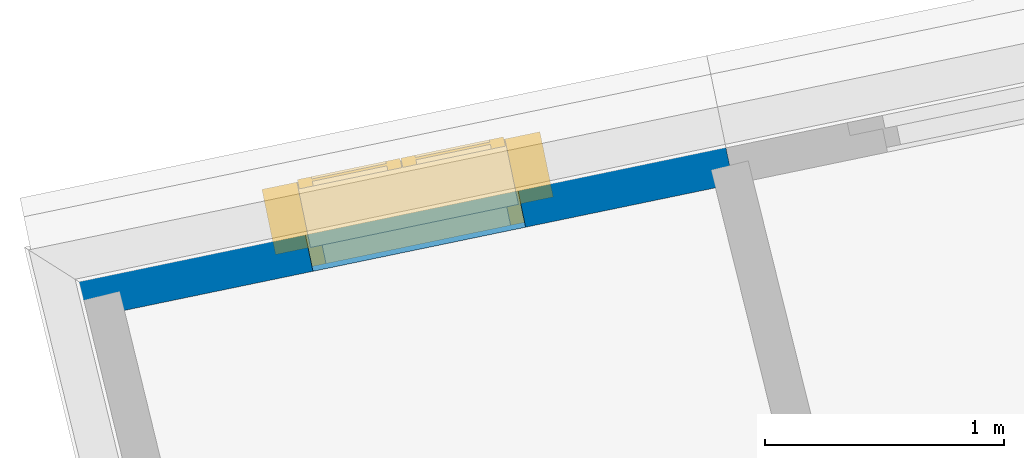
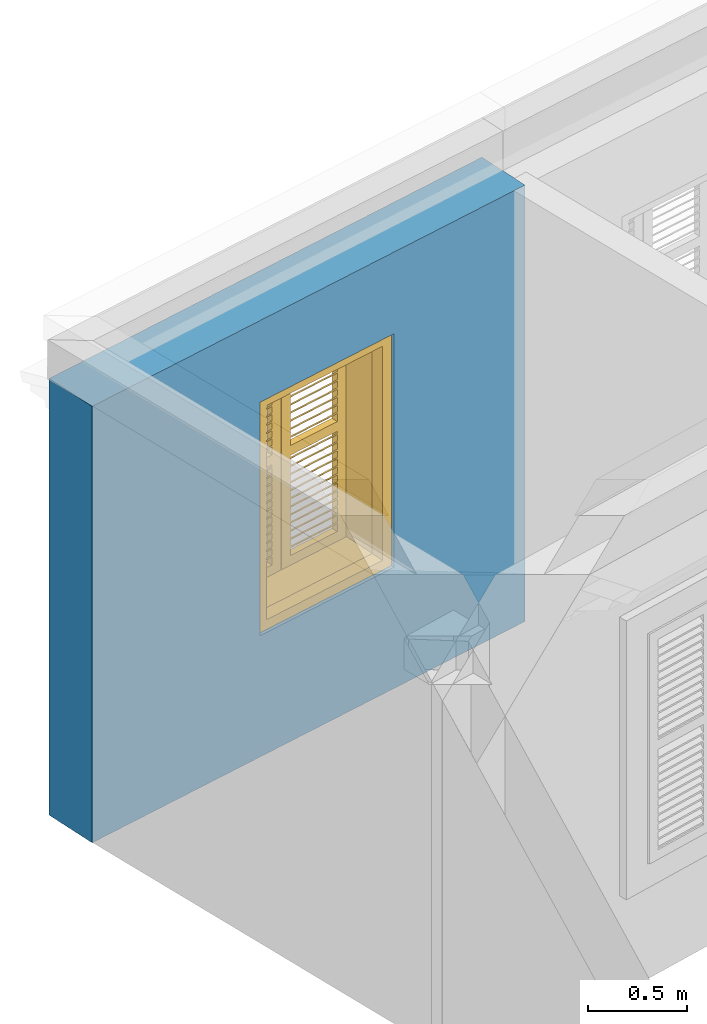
# One storey, part 9 of 15: 1 wall, 1 window, 1 opening.
"""IFC4 building model written with IfcOpenShell, lengths in metres."""

from ifc_helpers import new_model, si_unit, frame, origin, origin_with_axes, place, context, subcontext, project, spatial, polyline, outline, extrude, faceted_brep, source, transform, mapped, material, layer, layer_set, layer_usage, type_object, type_shapes, element, fill, save


model = new_model("IFC4")

# Units and contexts
model_context = context("Model", 3, world=origin_with_axes())
body_context = subcontext(model_context, "Body", "Model", "MODEL_VIEW")
ifc_project = project(units=[si_unit("PLANEANGLEUNIT", "RADIAN"), si_unit("MASSUNIT", "GRAM", prefix="KILO"), si_unit("FORCEUNIT", "NEWTON", prefix="KILO"), si_unit("LENGTHUNIT", "METRE"), si_unit("AREAUNIT", "SQUARE_METRE"), si_unit("VOLUMEUNIT", "CUBIC_METRE")], contexts=[model_context, model_context])

# Site, building, storey
site_placement = place(None, origin_with_axes())
site = spatial("IfcSite", under=ifc_project, at=site_placement, Name="Site plot-5", CompositionType="ELEMENT")
building_placement = place(None, origin_with_axes())
building = spatial("IfcBuilding", under=site, at=building_placement, Name="Building plot-5", CompositionType="ELEMENT")
storey_placement = place(None, frame((0.0, 0.0, 3.45), z_axis=(0.0, 0.0, 1.0), x_axis=(1.0, 0.0, 0.0)))
storey = spatial("IfcBuildingStorey", under=building, at=storey_placement, Name="plot-5 1", CompositionType="ELEMENT", Elevation=3.45)

# Wall, opening, window
ifc_material = material(Name="Masonry")
ifc_layer = layer(ifc_material, 0.33, ventilated=False)
ifc_layer_set = layer_set([ifc_layer], Name="exterior_0.08_0.25")
ifc_layer_usage = layer_usage(ifc_layer_set, "AXIS2", "POSITIVE", -0.25)
wall_type = type_object("IfcWallType", Name="exterior_0.08_0.25", PredefinedType="SOLIDWALL", material=ifc_layer_set)
wall_placement = place(storey_placement, frame((17.2174370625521, 31.1632786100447, 0.0), z_axis=(0.0, 0.0, 1.0), x_axis=(-0.979153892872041, -0.203119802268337, 0.0)))
wall = element("IfcWall", 1, at=wall_placement, inside=storey, type_object=wall_type, material=ifc_layer_usage, Name="exterior", context=body_context, shape_type="SweptSolid", body=[
    extrude(outline(polyline([(-2.92792097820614e-15, 0.0799999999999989), (6.17704587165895e-15, -0.25), (2.93941031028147, -0.25), (2.93941031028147, 0.079999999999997), (-2.92792097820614e-15, 0.0799999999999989)])), origin_with_axes(), (0.0, 0.0, 1.0), 2.7),
])
opening_placement = place(wall_placement, frame((0.889705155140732, 0.0, 0.75)))
opening = element("IfcOpeningElement", 2, at=opening_placement, cuts=wall, Name="My Opening", ObjectType="Opening", context=body_context, shape_type="SweptSolid", body=[
    extrude(outline(polyline([(0.0, -0.27), (0.910000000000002, -0.270000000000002), (0.910000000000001, 1.1), (4.55191440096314e-15, 1.1), (0.0, -0.27)])), origin_with_axes(), (0.0, 0.0, 1.0), 1.445),
])
window_type = type_object("IfcWindowType", Name="shuttered_shorter", PartitioningType="DOUBLE_PANEL_HORIZONTAL", PredefinedType="NOTDEFINED")
shared_shape = source(origin(), body_context, "Body", "Brep", [
    faceted_brep([(0.393, 0.0, 0.622), (0.074, 0.0, 0.622), (0.074, 0.0, 0.632), (0.393, 0.0, 0.632), (0.074, -0.04, 0.592), (0.393, -0.04, 0.592), (0.393, -0.04, 0.582), (0.074, -0.04, 0.582), (0.517, 0.0, 0.682), (0.836, 0.0, 0.682), (0.836, 0.0, 0.672), (0.517, 0.0, 0.672), (0.517, -0.04, 0.642), (0.836, -0.04, 0.642), (0.836, -0.04, 0.632), (0.517, -0.04, 0.632), (0.517, 0.0, 0.632), (0.836, 0.0, 0.632), (0.836, 0.0, 0.622), (0.517, 0.0, 0.622), (0.517, -0.04, 0.592), (0.836, -0.04, 0.592), (0.836, -0.04, 0.582), (0.517, -0.04, 0.582), (0.517, 0.0, 0.232), (0.836, 0.0, 0.232), (0.836, 0.0, 0.222), (0.517, 0.0, 0.222), (0.517, -0.04, 0.192), (0.836, -0.04, 0.192), (0.836, -0.04, 0.182), (0.517, -0.04, 0.182), (0.517, 0.0, 0.532), (0.836, 0.0, 0.532), (0.836, 0.0, 0.522), (0.517, 0.0, 0.522), (0.517, -0.04, 0.492), (0.836, -0.04, 0.492), (0.836, -0.04, 0.482), (0.517, -0.04, 0.482), (0.517, 0.0, 0.482), (0.836, 0.0, 0.482), (0.836, 0.0, 0.472), (0.517, 0.0, 0.472), (0.517, -0.04, 0.442), (0.836, -0.04, 0.442), (0.836, -0.04, 0.432), (0.517, -0.04, 0.432), (0.517, 0.0, 0.582), (0.836, 0.0, 0.582), (0.836, 0.0, 0.572), (0.517, 0.0, 0.572), (0.517, -0.04, 0.542), (0.836, -0.04, 0.542), (0.836, -0.04, 0.532), (0.517, -0.04, 0.532), (0.517, 0.0, 0.182), (0.836, 0.0, 0.182), (0.836, 0.0, 0.172), (0.517, 0.0, 0.172), (0.517, -0.04, 0.142), (0.836, -0.04, 0.142), (0.836, -0.04, 0.132), (0.517, -0.04, 0.132), (0.517, 0.0, 0.382), (0.836, 0.0, 0.382), (0.836, 0.0, 0.372), (0.517, 0.0, 0.372), (0.517, -0.04, 0.342), (0.836, -0.04, 0.342), (0.836, -0.04, 0.332), (0.517, -0.04, 0.332), (0.517, 0.0, 0.432), (0.836, 0.0, 0.432), (0.836, 0.0, 0.422), (0.517, 0.0, 0.422), (0.517, -0.04, 0.392), (0.836, -0.04, 0.392), (0.836, -0.04, 0.382), (0.517, -0.04, 0.382), (0.517, 0.0, 0.132), (0.836, 0.0, 0.132), (0.836, 0.0, 0.122), (0.517, 0.0, 0.122), (0.517, -0.04, 0.092), (0.836, -0.04, 0.092), (0.836, -0.04, 0.082), (0.517, -0.04, 0.082), (0.517, 0.0, 0.282), (0.836, 0.0, 0.282), (0.836, 0.0, 0.272), (0.517, 0.0, 0.272), (0.517, -0.04, 0.242), (0.836, -0.04, 0.242), (0.836, -0.04, 0.232), (0.517, -0.04, 0.232), (0.517, 0.0, 0.332), (0.836, 0.0, 0.332), (0.836, 0.0, 0.322), (0.517, 0.0, 0.322), (0.517, -0.04, 0.292), (0.836, -0.04, 0.292), (0.836, -0.04, 0.282), (0.517, -0.04, 0.282), (0.517, 0.0, 1.362667), (0.836, 0.0, 1.362667), (0.836, 0.0, 1.352667), (0.517, 0.0, 1.352667), (0.517, -0.04, 1.322667), (0.836, -0.04, 1.322667), (0.836, -0.04, 1.312667), (0.517, -0.04, 1.312667), (0.517, 0.0, 1.312667), (0.836, 0.0, 1.312667), (0.836, 0.0, 1.302667), (0.517, 0.0, 1.302667), (0.517, -0.04, 1.272667), (0.836, -0.04, 1.272667), (0.836, -0.04, 1.262667), (0.517, -0.04, 1.262667), (0.517, 0.0, 0.912667), (0.836, 0.0, 0.912667), (0.836, 0.0, 0.902667), (0.517, 0.0, 0.902667), (0.517, -0.04, 0.872667), (0.836, -0.04, 0.872667), (0.836, -0.04, 0.862667), (0.517, -0.04, 0.862667), (0.517, 0.0, 1.212667), (0.836, 0.0, 1.212667), (0.836, 0.0, 1.202667), (0.517, 0.0, 1.202667), (0.517, -0.04, 1.172667), (0.836, -0.04, 1.172667), (0.836, -0.04, 1.162667), (0.517, -0.04, 1.162667), (0.517, 0.0, 1.162667), (0.836, 0.0, 1.162667), (0.836, 0.0, 1.152667), (0.517, 0.0, 1.152667), (0.517, -0.04, 1.122667), (0.836, -0.04, 1.122667), (0.836, -0.04, 1.112667), (0.517, -0.04, 1.112667), (0.517, 0.0, 1.262667), (0.836, 0.0, 1.262667), (0.836, 0.0, 1.252667), (0.517, 0.0, 1.252667), (0.517, -0.04, 1.222667), (0.836, -0.04, 1.222667), (0.836, -0.04, 1.212667), (0.517, -0.04, 1.212667), (0.517, 0.0, 0.862667), (0.836, 0.0, 0.862667), (0.836, 0.0, 0.852667), (0.517, 0.0, 0.852667), (0.517, -0.04, 0.822667), (0.836, -0.04, 0.822667), (0.836, -0.04, 0.812667), (0.517, -0.04, 0.812667), (0.517, 0.0, 1.062667), (0.836, 0.0, 1.062667), (0.836, 0.0, 1.052667), (0.517, 0.0, 1.052667), (0.517, -0.04, 1.022667), (0.836, -0.04, 1.022667), (0.836, -0.04, 1.012667), (0.517, -0.04, 1.012667), (0.517, 0.0, 1.112667), (0.836, 0.0, 1.112667), (0.836, 0.0, 1.102667), (0.517, 0.0, 1.102667), (0.517, -0.04, 1.072667), (0.836, -0.04, 1.072667), (0.836, -0.04, 1.062667), (0.517, -0.04, 1.062667), (0.517, 0.0, 0.812667), (0.836, 0.0, 0.812667), (0.836, 0.0, 0.802667), (0.517, 0.0, 0.802667), (0.517, -0.04, 0.772667), (0.836, -0.04, 0.772667), (0.836, -0.04, 0.762667), (0.517, -0.04, 0.762667), (0.517, 0.0, 0.962667), (0.836, 0.0, 0.962667), (0.836, 0.0, 0.952667), (0.517, 0.0, 0.952667), (0.517, -0.04, 0.922667), (0.836, -0.04, 0.922667), (0.836, -0.04, 0.912667), (0.517, -0.04, 0.912667), (0.517, 0.0, 1.012667), (0.836, 0.0, 1.012667), (0.836, 0.0, 1.002667), (0.517, 0.0, 1.002667), (0.517, -0.04, 0.972667), (0.836, -0.04, 0.972667), (0.836, -0.04, 0.962667), (0.517, -0.04, 0.962667), (0.074, 0.0, 0.682), (0.393, 0.0, 0.682), (0.393, 0.0, 0.672), (0.074, 0.0, 0.672), (0.074, -0.04, 0.642), (0.393, -0.04, 0.642), (0.393, -0.04, 0.632), (0.074, -0.04, 0.632), (0.074, 0.0, 0.232), (0.393, 0.0, 0.232), (0.393, 0.0, 0.222), (0.074, 0.0, 0.222), (0.074, -0.04, 0.192), (0.393, -0.04, 0.192), (0.393, -0.04, 0.182), (0.074, -0.04, 0.182), (0.074, 0.0, 0.532), (0.393, 0.0, 0.532), (0.393, 0.0, 0.522), (0.074, 0.0, 0.522), (0.074, -0.04, 0.492), (0.393, -0.04, 0.492), (0.393, -0.04, 0.482), (0.074, -0.04, 0.482), (0.074, 0.0, 0.482), (0.393, 0.0, 0.482), (0.393, 0.0, 0.472), (0.074, 0.0, 0.472), (0.074, -0.04, 0.442), (0.393, -0.04, 0.442), (0.393, -0.04, 0.432), (0.074, -0.04, 0.432), (0.074, 0.0, 0.582), (0.393, 0.0, 0.582), (0.393, 0.0, 0.572), (0.074, 0.0, 0.572), (0.074, -0.04, 0.542), (0.393, -0.04, 0.542), (0.393, -0.04, 0.532), (0.074, -0.04, 0.532), (0.074, 0.0, 0.182), (0.393, 0.0, 0.182), (0.393, 0.0, 0.172), (0.074, 0.0, 0.172), (0.074, -0.04, 0.142), (0.393, -0.04, 0.142), (0.393, -0.04, 0.132), (0.074, -0.04, 0.132), (0.074, 0.0, 0.382), (0.393, 0.0, 0.382), (0.393, 0.0, 0.372), (0.074, 0.0, 0.372), (0.074, -0.04, 0.342), (0.393, -0.04, 0.342), (0.393, -0.04, 0.332), (0.074, -0.04, 0.332), (0.074, 0.0, 0.432), (0.393, 0.0, 0.432), (0.393, 0.0, 0.422), (0.074, 0.0, 0.422), (0.074, -0.04, 0.392), (0.393, -0.04, 0.392), (0.393, -0.04, 0.382), (0.074, -0.04, 0.382), (0.074, 0.0, 0.132), (0.393, 0.0, 0.132), (0.393, 0.0, 0.122), (0.074, 0.0, 0.122), (0.074, -0.04, 0.092), (0.393, -0.04, 0.092), (0.393, -0.04, 0.082), (0.074, -0.04, 0.082), (0.074, 0.0, 0.282), (0.393, 0.0, 0.282), (0.393, 0.0, 0.272), (0.074, 0.0, 0.272), (0.074, -0.04, 0.242), (0.393, -0.04, 0.242), (0.393, -0.04, 0.232), (0.074, -0.04, 0.232), (0.074, 0.0, 0.332), (0.393, 0.0, 0.332), (0.393, 0.0, 0.322), (0.074, 0.0, 0.322), (0.074, -0.04, 0.292), (0.393, -0.04, 0.292), (0.393, -0.04, 0.282), (0.074, -0.04, 0.282), (0.074, 0.0, 1.362667), (0.393, 0.0, 1.362667), (0.393, 0.0, 1.352667), (0.074, 0.0, 1.352667), (0.074, -0.04, 1.322667), (0.393, -0.04, 1.322667), (0.393, -0.04, 1.312667), (0.074, -0.04, 1.312667), (0.074, 0.0, 1.312667), (0.393, 0.0, 1.312667), (0.393, 0.0, 1.302667), (0.074, 0.0, 1.302667), (0.074, -0.04, 1.272667), (0.393, -0.04, 1.272667), (0.393, -0.04, 1.262667), (0.074, -0.04, 1.262667), (0.074, 0.0, 0.912667), (0.393, 0.0, 0.912667), (0.393, 0.0, 0.902667), (0.074, 0.0, 0.902667), (0.074, -0.04, 0.872667), (0.393, -0.04, 0.872667), (0.393, -0.04, 0.862667), (0.074, -0.04, 0.862667), (0.074, 0.0, 1.212667), (0.393, 0.0, 1.212667), (0.393, 0.0, 1.202667), (0.074, 0.0, 1.202667), (0.074, -0.04, 1.172667), (0.393, -0.04, 1.172667), (0.393, -0.04, 1.162667), (0.074, -0.04, 1.162667), (0.074, 0.0, 1.162667), (0.393, 0.0, 1.162667), (0.393, 0.0, 1.152667), (0.074, 0.0, 1.152667), (0.074, -0.04, 1.122667), (0.393, -0.04, 1.122667), (0.393, -0.04, 1.112667), (0.074, -0.04, 1.112667), (0.074, 0.0, 1.262667), (0.393, 0.0, 1.262667), (0.393, 0.0, 1.252667), (0.074, 0.0, 1.252667), (0.074, -0.04, 1.222667), (0.393, -0.04, 1.222667), (0.393, -0.04, 1.212667), (0.074, -0.04, 1.212667), (0.074, 0.0, 0.862667), (0.393, 0.0, 0.862667), (0.393, 0.0, 0.852667), (0.074, 0.0, 0.852667), (0.074, -0.04, 0.822667), (0.393, -0.04, 0.822667), (0.393, -0.04, 0.812667), (0.074, -0.04, 0.812667), (0.074, 0.0, 1.062667), (0.393, 0.0, 1.062667), (0.393, 0.0, 1.052667), (0.074, 0.0, 1.052667), (0.074, -0.04, 1.022667), (0.393, -0.04, 1.022667), (0.393, -0.04, 1.012667), (0.074, -0.04, 1.012667), (0.074, 0.0, 1.112667), (0.393, 0.0, 1.112667), (0.393, 0.0, 1.102667), (0.074, 0.0, 1.102667), (0.074, -0.04, 1.072667), (0.393, -0.04, 1.072667), (0.393, -0.04, 1.062667), (0.074, -0.04, 1.062667), (0.074, 0.0, 0.812667), (0.393, 0.0, 0.812667), (0.393, 0.0, 0.802667), (0.074, 0.0, 0.802667), (0.074, -0.04, 0.772667), (0.393, -0.04, 0.772667), (0.393, -0.04, 0.762667), (0.074, -0.04, 0.762667), (0.074, 0.0, 0.962667), (0.393, 0.0, 0.962667), (0.393, 0.0, 0.952667), (0.074, 0.0, 0.952667), (0.074, -0.04, 0.922667), (0.393, -0.04, 0.922667), (0.393, -0.04, 0.912667), (0.074, -0.04, 0.912667), (0.074, 0.0, 1.012667), (0.393, 0.0, 1.012667), (0.393, 0.0, 1.002667), (0.074, 0.0, 1.002667), (0.074, -0.04, 0.972667), (0.393, -0.04, 0.972667), (0.393, -0.04, 0.962667), (0.074, -0.04, 0.962667), (0.517, -0.04, 0.072), (0.457, -0.04, 0.012), (0.896, -0.04, 0.012), (0.836, -0.04, 0.072), (0.457, -0.04, 0.692667), (0.517, -0.04, 0.692667), (0.457, 0.0, 0.012), (0.896, 0.0, 0.012), (0.836, -0.04, 0.692667), (0.896, -0.04, 0.692667), (0.836, 0.0, 0.072), (0.517, 0.0, 0.072), (0.457, 0.0, 0.692667), (0.517, 0.0, 0.692667), (0.517, -0.04, 0.752666), (0.457, -0.04, 0.752666), (0.896, 0.0, 0.692667), (0.836, 0.0, 0.692667), (0.836, -0.04, 0.752666), (0.896, -0.04, 0.752666), (0.457, 0.0, 0.752666), (0.457, -0.04, 1.433333), (0.517, -0.04, 1.373333), (0.896, 0.0, 0.752666), (0.836, -0.04, 1.373333), (0.896, -0.04, 1.433333), (0.457, 0.0, 1.433333), (0.517, 0.0, 0.752666), (0.836, 0.0, 0.752666), (0.517, 0.0, 1.373333), (0.896, 0.0, 1.433333), (0.836, 0.0, 1.373333), (0.074, -0.04, 0.072), (0.014, -0.04, 0.012), (0.453, -0.04, 0.012), (0.393, -0.04, 0.072), (0.014, -0.04, 0.692667), (0.074, -0.04, 0.692667), (0.014, 0.0, 0.012), (0.453, 0.0, 0.012), (0.393, -0.04, 0.692667), (0.453, -0.04, 0.692667), (0.393, 0.0, 0.072), (0.074, 0.0, 0.072), (0.014, 0.0, 0.692667), (0.074, 0.0, 0.692667), (0.074, -0.04, 0.752666), (0.014, -0.04, 0.752666), (0.453, 0.0, 0.692667), (0.393, 0.0, 0.692667), (0.393, -0.04, 0.752666), (0.453, -0.04, 0.752666), (0.014, 0.0, 0.752666), (0.014, -0.04, 1.433333), (0.074, -0.04, 1.373333), (0.453, 0.0, 0.752666), (0.393, -0.04, 1.373333), (0.453, -0.04, 1.433333), (0.014, 0.0, 1.433333), (0.074, 0.0, 0.752666), (0.393, 0.0, 0.752666), (0.074, 0.0, 1.373333), (0.453, 0.0, 1.433333), (0.393, 0.0, 1.373333), (0.0, 0.33, 1.445), (0.91, 0.33, 1.445), (0.85, 0.33, 1.385), (0.06, 0.33, 1.385), (0.91, 0.25, 1.445), (0.0, 0.25, 1.445), (0.91, 0.25, 1.445), (0.85, 0.33, 0.06), (0.91, 0.33, 0.0), (0.85, 0.25, 1.385), (0.06, 0.25, 1.385), (0.0, 0.33, 0.0), (0.06, 0.33, 0.06), (0.0, 0.25, 0.0), (0.91, 0.25, 0.0), (0.85, 0.25, 0.06), (0.06, 0.25, 0.06), (1.05, 0.25, 1.585), (-0.14, 0.25, 1.585), (-0.14, -0.03, 1.585), (1.05, -0.03, 1.585), (0.9, -0.03, 1.435), (0.01, -0.03, 1.435), (0.01, 0.25, 1.435), (0.9, 0.25, 1.435), (0.9, 0.25, 0.01), (0.9, -0.03, 0.01), (1.05, -0.03, -0.14), (1.05, 0.25, -0.14), (0.01, -0.03, 0.01), (0.01, 0.25, 0.01), (-0.14, -0.03, -0.14), (-0.14, 0.25, -0.14)], [[[0, 1, 2, 3]], [[4, 5, 3, 2]], [[5, 6, 0, 3]], [[1, 0, 6, 7]], [[2, 1, 7, 4]], [[5, 4, 7, 6]], [[8, 9, 10, 11]], [[12, 13, 9, 8]], [[13, 14, 10, 9]], [[14, 15, 11, 10]], [[15, 12, 8, 11]], [[13, 12, 15, 14]], [[16, 17, 18, 19]], [[20, 21, 17, 16]], [[21, 22, 18, 17]], [[22, 23, 19, 18]], [[23, 20, 16, 19]], [[21, 20, 23, 22]], [[24, 25, 26, 27]], [[28, 29, 25, 24]], [[29, 30, 26, 25]], [[30, 31, 27, 26]], [[31, 28, 24, 27]], [[29, 28, 31, 30]], [[32, 33, 34, 35]], [[36, 37, 33, 32]], [[37, 38, 34, 33]], [[38, 39, 35, 34]], [[39, 36, 32, 35]], [[37, 36, 39, 38]], [[40, 41, 42, 43]], [[44, 45, 41, 40]], [[45, 46, 42, 41]], [[46, 47, 43, 42]], [[47, 44, 40, 43]], [[45, 44, 47, 46]], [[48, 49, 50, 51]], [[52, 53, 49, 48]], [[53, 54, 50, 49]], [[54, 55, 51, 50]], [[55, 52, 48, 51]], [[53, 52, 55, 54]], [[56, 57, 58, 59]], [[60, 61, 57, 56]], [[61, 62, 58, 57]], [[62, 63, 59, 58]], [[63, 60, 56, 59]], [[61, 60, 63, 62]], [[64, 65, 66, 67]], [[68, 69, 65, 64]], [[69, 70, 66, 65]], [[70, 71, 67, 66]], [[71, 68, 64, 67]], [[69, 68, 71, 70]], [[72, 73, 74, 75]], [[76, 77, 73, 72]], [[77, 78, 74, 73]], [[78, 79, 75, 74]], [[79, 76, 72, 75]], [[77, 76, 79, 78]], [[80, 81, 82, 83]], [[84, 85, 81, 80]], [[85, 86, 82, 81]], [[86, 87, 83, 82]], [[87, 84, 80, 83]], [[85, 84, 87, 86]], [[88, 89, 90, 91]], [[92, 93, 89, 88]], [[93, 94, 90, 89]], [[94, 95, 91, 90]], [[95, 92, 88, 91]], [[93, 92, 95, 94]], [[96, 97, 98, 99]], [[100, 101, 97, 96]], [[101, 102, 98, 97]], [[102, 103, 99, 98]], [[103, 100, 96, 99]], [[101, 100, 103, 102]], [[104, 105, 106, 107]], [[108, 109, 105, 104]], [[109, 110, 106, 105]], [[110, 111, 107, 106]], [[111, 108, 104, 107]], [[109, 108, 111, 110]], [[112, 113, 114, 115]], [[116, 117, 113, 112]], [[117, 118, 114, 113]], [[118, 119, 115, 114]], [[119, 116, 112, 115]], [[117, 116, 119, 118]], [[120, 121, 122, 123]], [[124, 125, 121, 120]], [[125, 126, 122, 121]], [[126, 127, 123, 122]], [[127, 124, 120, 123]], [[125, 124, 127, 126]], [[128, 129, 130, 131]], [[132, 133, 129, 128]], [[133, 134, 130, 129]], [[134, 135, 131, 130]], [[135, 132, 128, 131]], [[133, 132, 135, 134]], [[136, 137, 138, 139]], [[140, 141, 137, 136]], [[141, 142, 138, 137]], [[142, 143, 139, 138]], [[139, 143, 140, 136]], [[141, 140, 143, 142]], [[144, 145, 146, 147]], [[148, 149, 145, 144]], [[149, 150, 146, 145]], [[150, 151, 147, 146]], [[151, 148, 144, 147]], [[149, 148, 151, 150]], [[152, 153, 154, 155]], [[156, 157, 153, 152]], [[157, 158, 154, 153]], [[158, 159, 155, 154]], [[159, 156, 152, 155]], [[157, 156, 159, 158]], [[160, 161, 162, 163]], [[164, 165, 161, 160]], [[165, 166, 162, 161]], [[166, 167, 163, 162]], [[167, 164, 160, 163]], [[165, 164, 167, 166]], [[168, 169, 170, 171]], [[172, 173, 169, 168]], [[173, 174, 170, 169]], [[174, 175, 171, 170]], [[175, 172, 168, 171]], [[173, 172, 175, 174]], [[176, 177, 178, 179]], [[180, 181, 177, 176]], [[181, 182, 178, 177]], [[182, 183, 179, 178]], [[183, 180, 176, 179]], [[181, 180, 183, 182]], [[184, 185, 186, 187]], [[188, 189, 185, 184]], [[189, 190, 186, 185]], [[190, 191, 187, 186]], [[191, 188, 184, 187]], [[189, 188, 191, 190]], [[192, 193, 194, 195]], [[196, 197, 193, 192]], [[197, 198, 194, 193]], [[198, 199, 195, 194]], [[199, 196, 192, 195]], [[197, 196, 199, 198]], [[200, 201, 202, 203]], [[204, 205, 201, 200]], [[205, 206, 202, 201]], [[206, 207, 203, 202]], [[207, 204, 200, 203]], [[205, 204, 207, 206]], [[208, 209, 210, 211]], [[212, 213, 209, 208]], [[213, 214, 210, 209]], [[214, 215, 211, 210]], [[215, 212, 208, 211]], [[213, 212, 215, 214]], [[216, 217, 218, 219]], [[220, 221, 217, 216]], [[221, 222, 218, 217]], [[222, 223, 219, 218]], [[223, 220, 216, 219]], [[221, 220, 223, 222]], [[224, 225, 226, 227]], [[228, 229, 225, 224]], [[229, 230, 226, 225]], [[230, 231, 227, 226]], [[231, 228, 224, 227]], [[229, 228, 231, 230]], [[232, 233, 234, 235]], [[236, 237, 233, 232]], [[237, 238, 234, 233]], [[238, 239, 235, 234]], [[239, 236, 232, 235]], [[237, 236, 239, 238]], [[240, 241, 242, 243]], [[244, 245, 241, 240]], [[245, 246, 242, 241]], [[246, 247, 243, 242]], [[247, 244, 240, 243]], [[245, 244, 247, 246]], [[248, 249, 250, 251]], [[252, 253, 249, 248]], [[253, 254, 250, 249]], [[254, 255, 251, 250]], [[255, 252, 248, 251]], [[253, 252, 255, 254]], [[256, 257, 258, 259]], [[260, 261, 257, 256]], [[261, 262, 258, 257]], [[262, 263, 259, 258]], [[263, 260, 256, 259]], [[261, 260, 263, 262]], [[264, 265, 266, 267]], [[268, 269, 265, 264]], [[269, 270, 266, 265]], [[270, 271, 267, 266]], [[271, 268, 264, 267]], [[269, 268, 271, 270]], [[272, 273, 274, 275]], [[276, 277, 273, 272]], [[277, 278, 274, 273]], [[278, 279, 275, 274]], [[279, 276, 272, 275]], [[277, 276, 279, 278]], [[280, 281, 282, 283]], [[284, 285, 281, 280]], [[285, 286, 282, 281]], [[286, 287, 283, 282]], [[287, 284, 280, 283]], [[285, 284, 287, 286]], [[288, 289, 290, 291]], [[292, 293, 289, 288]], [[293, 294, 290, 289]], [[294, 295, 291, 290]], [[295, 292, 288, 291]], [[293, 292, 295, 294]], [[296, 297, 298, 299]], [[300, 301, 297, 296]], [[301, 302, 298, 297]], [[302, 303, 299, 298]], [[303, 300, 296, 299]], [[301, 300, 303, 302]], [[304, 305, 306, 307]], [[308, 309, 305, 304]], [[309, 310, 306, 305]], [[310, 311, 307, 306]], [[311, 308, 304, 307]], [[309, 308, 311, 310]], [[312, 313, 314, 315]], [[316, 317, 313, 312]], [[317, 318, 314, 313]], [[318, 319, 315, 314]], [[319, 316, 312, 315]], [[317, 316, 319, 318]], [[320, 321, 322, 323]], [[324, 325, 321, 320]], [[325, 326, 322, 321]], [[326, 327, 323, 322]], [[327, 324, 320, 323]], [[325, 324, 327, 326]], [[328, 329, 330, 331]], [[332, 333, 329, 328]], [[333, 334, 330, 329]], [[334, 335, 331, 330]], [[335, 332, 328, 331]], [[333, 332, 335, 334]], [[336, 337, 338, 339]], [[340, 341, 337, 336]], [[341, 342, 338, 337]], [[342, 343, 339, 338]], [[343, 340, 336, 339]], [[341, 340, 343, 342]], [[344, 345, 346, 347]], [[348, 349, 345, 344]], [[349, 350, 346, 345]], [[350, 351, 347, 346]], [[351, 348, 344, 347]], [[349, 348, 351, 350]], [[352, 353, 354, 355]], [[356, 357, 353, 352]], [[357, 358, 354, 353]], [[358, 359, 355, 354]], [[359, 356, 352, 355]], [[357, 356, 359, 358]], [[360, 361, 362, 363]], [[364, 365, 361, 360]], [[365, 366, 362, 361]], [[366, 367, 363, 362]], [[367, 364, 360, 363]], [[365, 364, 367, 366]], [[368, 369, 370, 371]], [[372, 373, 369, 368]], [[373, 374, 370, 369]], [[374, 375, 371, 370]], [[375, 372, 368, 371]], [[373, 372, 375, 374]], [[376, 377, 378, 379]], [[380, 381, 377, 376]], [[381, 382, 378, 377]], [[382, 383, 379, 378]], [[383, 380, 376, 379]], [[381, 380, 383, 382]], [[384, 385, 386, 387]], [[388, 385, 384, 389]], [[390, 391, 386, 385]], [[392, 387, 386, 393]], [[384, 387, 394, 395]], [[390, 385, 388, 396]], [[389, 384, 395, 397]], [[389, 398, 399, 388]], [[390, 395, 394, 391]], [[400, 393, 386, 391]], [[387, 392, 401, 394]], [[402, 392, 393, 403]], [[396, 388, 399, 404]], [[390, 396, 397, 395]], [[392, 389, 397, 401]], [[398, 389, 392, 402]], [[405, 399, 398, 406]], [[394, 401, 400, 391]], [[407, 403, 393, 400]], [[408, 402, 403, 409]], [[404, 399, 405, 410]], [[411, 397, 396, 404]], [[397, 411, 412, 401]], [[398, 402, 412, 411]], [[406, 398, 411, 413]], [[405, 406, 408, 409]], [[401, 412, 407, 400]], [[414, 409, 403, 407]], [[402, 408, 415, 412]], [[405, 409, 414, 410]], [[404, 410, 413, 411]], [[408, 406, 413, 415]], [[412, 415, 414, 407]], [[413, 410, 414, 415]], [[416, 417, 418, 419]], [[420, 417, 416, 421]], [[422, 423, 418, 417]], [[424, 419, 418, 425]], [[416, 419, 426, 427]], [[422, 417, 420, 428]], [[421, 416, 427, 429]], [[421, 430, 431, 420]], [[422, 427, 426, 423]], [[432, 425, 418, 423]], [[419, 424, 433, 426]], [[434, 424, 425, 435]], [[428, 420, 431, 436]], [[422, 428, 429, 427]], [[424, 421, 429, 433]], [[430, 421, 424, 434]], [[437, 431, 430, 438]], [[426, 433, 432, 423]], [[439, 435, 425, 432]], [[440, 434, 435, 441]], [[436, 431, 437, 442]], [[443, 429, 428, 436]], [[429, 443, 444, 433]], [[430, 434, 444, 443]], [[438, 430, 443, 445]], [[437, 438, 440, 441]], [[433, 444, 439, 432]], [[446, 441, 435, 439]], [[434, 440, 447, 444]], [[437, 441, 446, 442]], [[436, 442, 445, 443]], [[440, 438, 445, 447]], [[444, 447, 446, 439]], [[445, 442, 446, 447]], [[448, 449, 450, 451]], [[452, 449, 448]], [[448, 453, 454]], [[448, 454, 452]], [[455, 450, 449, 456]], [[451, 450, 457, 458]], [[459, 448, 451, 460]], [[448, 459, 461, 453]], [[454, 453, 458, 457]], [[462, 452, 454]], [[454, 457, 463]], [[454, 463, 462]], [[456, 449, 452, 462]], [[450, 455, 463, 457]], [[456, 459, 460, 455]], [[460, 451, 458, 464]], [[459, 456, 462, 461]], [[464, 458, 453, 461]], [[461, 462, 463, 464]], [[455, 460, 464, 463]], [[465, 466, 467, 468]], [[469, 470, 471, 472]], [[473, 474, 469, 472]], [[465, 468, 475, 476]], [[470, 477, 478, 471]], [[474, 473, 478, 477]], [[474, 477, 479, 475]], [[470, 467, 479, 477]], [[470, 469, 468, 467]], [[474, 475, 468, 469]], [[471, 478, 480, 466]], [[473, 472, 465, 476]], [[473, 476, 480, 478]], [[466, 465, 472, 471]], [[480, 476, 475, 479]], [[480, 479, 467, 466]]]),
])
type_shapes(window_type, [shared_shape])
window_placement = place(storey_placement, frame((16.2914364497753, 31.2469334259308, 0.75), z_axis=(0.0, 0.0, 1.0), x_axis=(-0.891030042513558, -0.184839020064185, 0.0)))
window = element("IfcWindow", 3, at=window_placement, inside=storey, type_object=window_type, Name="toilet outside window", OverallHeight=1.445, OverallWidth=0.91, context=body_context, shape_type="MappedRepresentation", body=[
    mapped(shared_shape, transform((0.0, 0.0, 0.0), scale=1.0)),
])
fill(opening, window)

save(model, "model.ifc")
